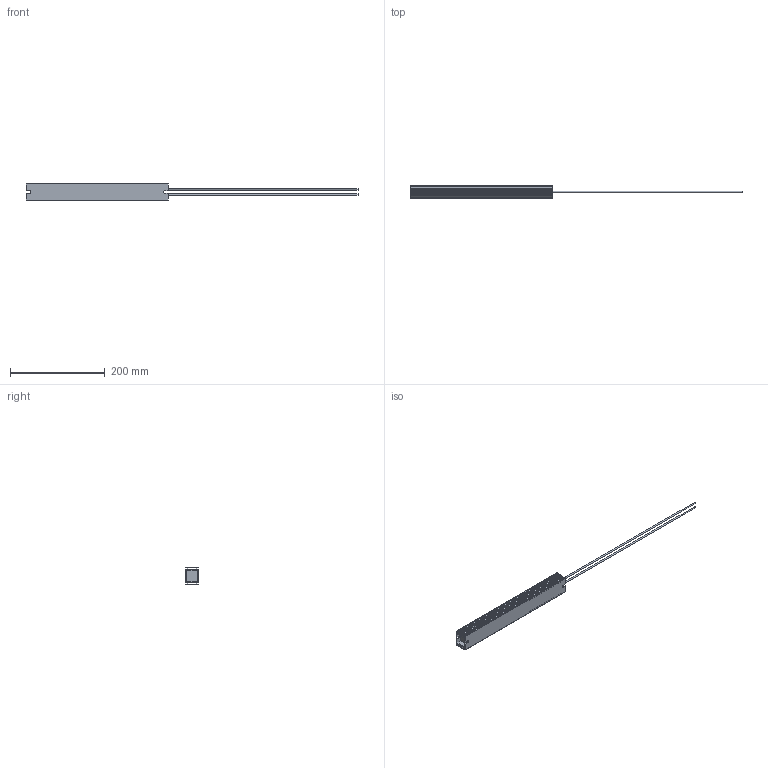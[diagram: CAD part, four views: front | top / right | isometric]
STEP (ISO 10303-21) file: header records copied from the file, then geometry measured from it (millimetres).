
FILE_DESCRIPTION(/* description */ (''),/* implementation_level */ '2;1');
FILE_NAME(/* name */ 'C:\_Vault\Dati\CATALOGO\RFZC\3D\RFZC300.stp',/* time_stamp */ '2014-03-27T17:42:38+01:00',/* author */ ('stefano'),/* organization */ (''),/* preprocessor_version */ 'ST-DEVELOPER v15.2',/* originating_system */ 'Autodesk Inventor 2014',/* authorisation */ '');
FILE_SCHEMA (('AUTOMOTIVE_DESIGN { 1 0 10303 214 3 1 1 }'));
Length unit declared in the file: millimetre
Products named in the file (1): RFZC300
Bounding box: 700 x 27 x 36 mm (x, y, z)
Volume: 251300.6 mm3; surface area: 72987.7 mm2
Topology: 1 solids, 1 shells, 94 faces, 262 edges, 172 vertices
Faces by surface type: plane 70, cylinder 24
Full cylindrical faces by diameter (mm): 3 x2
Entity records: 3124 total; most frequent: CARTESIAN_POINT 527, ORIENTED_EDGE 520, DIRECTION 506, EDGE_CURVE 260, LINE 204, VECTOR 204, VERTEX_POINT 172, AXIS2_PLACEMENT_3D 151
